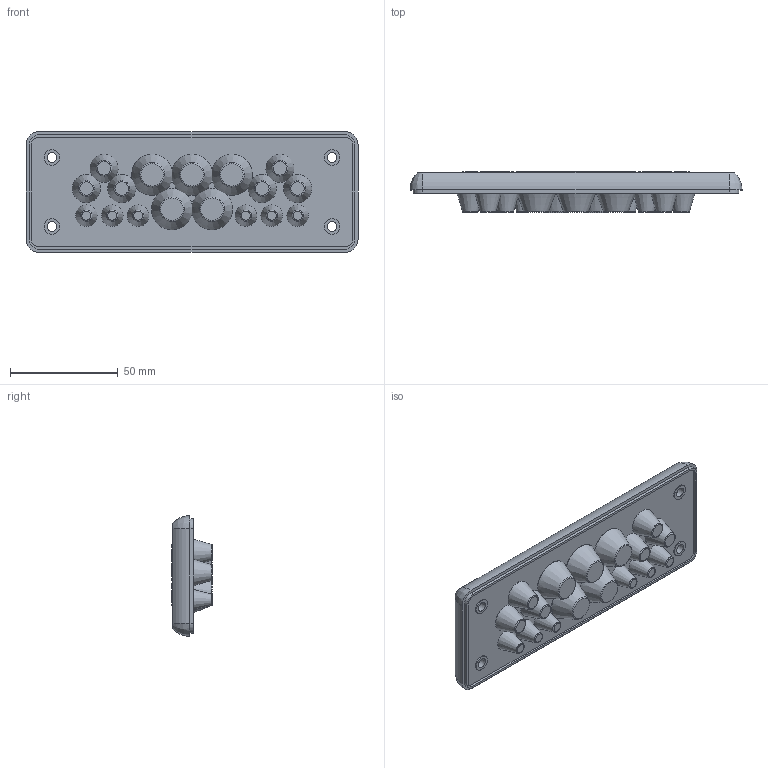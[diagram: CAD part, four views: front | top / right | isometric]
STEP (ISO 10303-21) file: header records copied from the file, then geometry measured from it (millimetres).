
FILE_DESCRIPTION( ( 'STEP AP214' ), '1' );
FILE_NAME( 'p:/temp/worker_23/temp/exporttempdir_6076_280_OA18a/format_0/107296 MH-24 F 17-2.stp', '2021-05-11T08:03:49', ( 'License CC BY-ND 4.0' ), ( 'CADENAS' ), ' ', 'PARTsolutions', ' ' );
FILE_SCHEMA( ( 'AUTOMOTIVE_DESIGN { 1 0 10303 214 1 1 1 1 }' ) );
Length unit declared in the file: millimetre
Products named in the file (1): _107296 MH-24 F 17-2
Bounding box: 154 x 19 x 56 mm (x, y, z)
Volume: 86100 mm3; surface area: 25047.4 mm2
Topology: 1 solids, 1 shells, 174 faces, 390 edges, 252 vertices
Faces by surface type: plane 61, cylinder 50, cone 38, torus 21, bspline 4
Full cylindrical faces by diameter (mm): 4.5 x4, 7.2 x4
Entity records: 5829 total; most frequent: CARTESIAN_POINT 914, DIRECTION 800, ORIENTED_EDGE 570, AXIS2_PLACEMENT_3D 361, EDGE_CURVE 285, EDGE_LOOP 283, VERTEX_POINT 214, FACE_OUTER_BOUND 203
